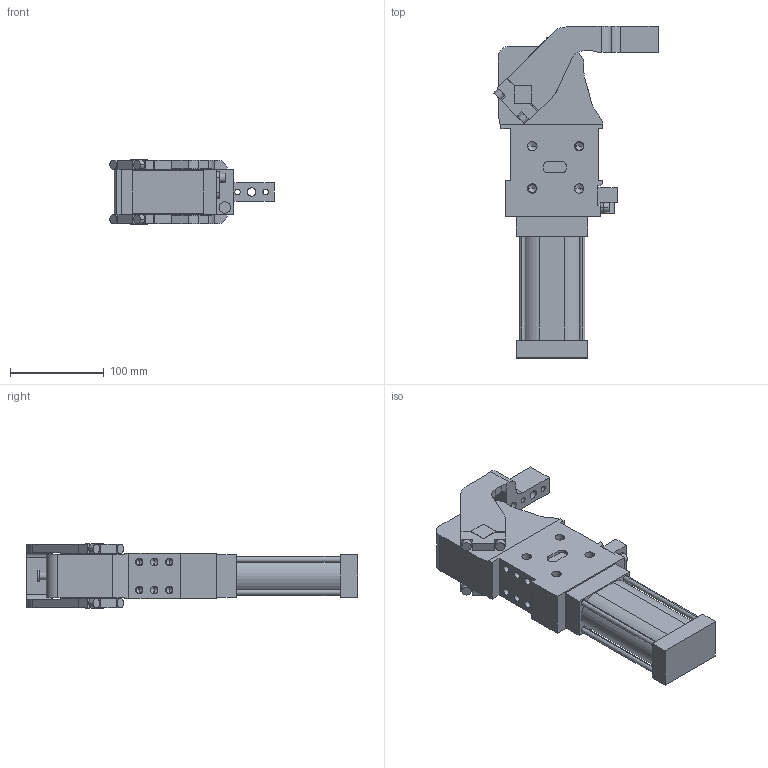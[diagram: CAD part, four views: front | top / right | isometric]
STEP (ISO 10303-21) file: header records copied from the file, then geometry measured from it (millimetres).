
FILE_DESCRIPTION (( 'STEP AP214' ), '1' );
FILE_NAME ('cpl50v3csi1g_26.STEP', '2023-01-26T09:52:47', ( '' ), ( '' ), 'SwSTEP 2.0', 'SolidWorks 2022', '' );
FILE_SCHEMA (( 'AUTOMOTIVE_DESIGN' ));
Length unit declared in the file: millimetre
Products named in the file (4): meccanica_cpl_50; leva_cx_offset_45_cpl50; cpl50v3csi1g_26; blocchetto_VEP_0
Assembly tree (3 placements, depth 2):
  cpl50v3csi1g_26
    meccanica_cpl_50
    blocchetto_VEP_0
    leva_cx_offset_45_cpl50
Bounding box: 174.97 x 353.5 x 69 mm (x, y, z)
Volume: 1390552.4 mm3; surface area: 165759.9 mm2
Topology: 3 solids, 3 shells, 401 faces, 1035 edges, 643 vertices
Faces by surface type: plane 195, cylinder 156, cone 50
Entity records: 13479 total; most frequent: DIRECTION 2125, CARTESIAN_POINT 2115, ORIENTED_EDGE 1978, EDGE_CURVE 989, AXIS2_PLACEMENT_3D 735, LINE 655, VECTOR 655, VERTEX_POINT 643
